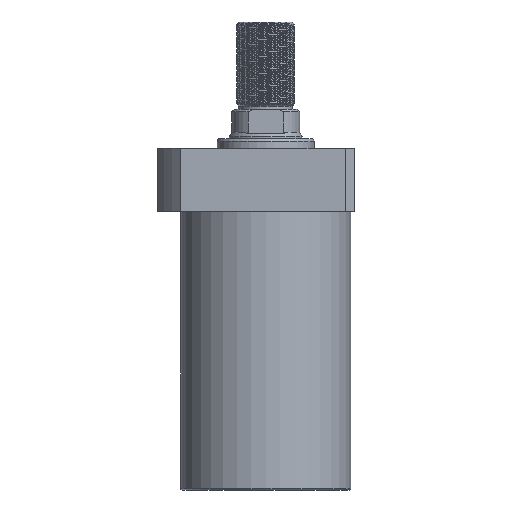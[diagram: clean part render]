
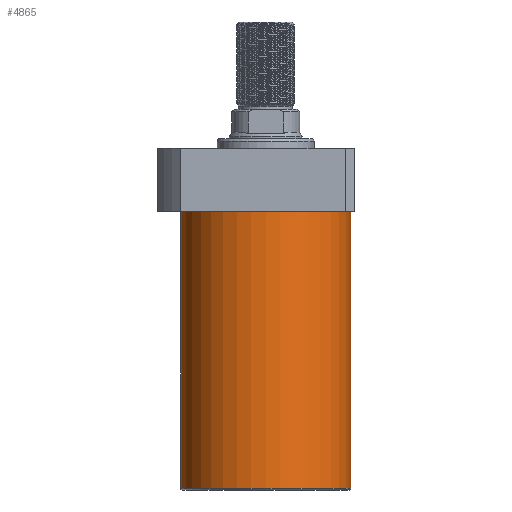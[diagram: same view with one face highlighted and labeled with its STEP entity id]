
A CAD part, front view. The second image highlights one B-rep face of the part: STEP entity #4865.
In plain terms, the highlighted cylindrical face has radius 52.5 mm (diameter 105 mm), a partial arc.
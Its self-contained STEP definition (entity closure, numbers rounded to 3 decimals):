
#151 = EDGE_CURVE ( 'NONE', #5277, #4963, #2709, .T. ) ;
#598 = CARTESIAN_POINT ( 'NONE',  ( 0., 0., -19.5 ) ) ;
#996 = DIRECTION ( 'NONE',  ( 0., 0., 1. ) ) ;
#1059 = VECTOR ( 'NONE', #2474, 1000. ) ;
#1074 = ORIENTED_EDGE ( 'NONE', *, *, #151, .F. ) ;
#1237 = DIRECTION ( 'NONE',  ( 1., 0., 0. ) ) ;
#1312 = EDGE_LOOP ( 'NONE', ( #1074, #6889, #1515, #4651 ) ) ;
#1318 = CARTESIAN_POINT ( 'NONE',  ( -52.5, 0., -191.5 ) ) ;
#1462 = AXIS2_PLACEMENT_3D ( 'NONE', #3450, #4713, #7282 ) ;
#1515 = ORIENTED_EDGE ( 'NONE', *, *, #3473, .T. ) ;
#1891 = DIRECTION ( 'NONE',  ( 0., 0., 1. ) ) ;
#2449 = CARTESIAN_POINT ( 'NONE',  ( 52.5, 0., -191.5 ) ) ;
#2474 = DIRECTION ( 'NONE',  ( 0., 0., 1. ) ) ;
#2515 = VECTOR ( 'NONE', #996, 1000. ) ;
#2709 = LINE ( 'NONE', #1318, #2515 ) ;
#3450 = CARTESIAN_POINT ( 'NONE',  ( 0., 0., -191.5 ) ) ;
#3473 = EDGE_CURVE ( 'NONE', #3540, #5854, #4869, .T. ) ;
#3540 = VERTEX_POINT ( 'NONE', #8295 ) ;
#3795 = CARTESIAN_POINT ( 'NONE',  ( 52.5, 0., -19.5 ) ) ;
#4038 = EDGE_CURVE ( 'NONE', #5277, #3540, #8271, .T. ) ;
#4504 = AXIS2_PLACEMENT_3D ( 'NONE', #5715, #1891, #6371 ) ;
#4651 = ORIENTED_EDGE ( 'NONE', *, *, #7072, .T. ) ;
#4713 = DIRECTION ( 'NONE',  ( 0., 0., 1. ) ) ;
#4865 = ADVANCED_FACE ( 'NONE', ( #8264 ), #6363, .T. ) ;
#4869 = LINE ( 'NONE', #2449, #1059 ) ;
#4963 = VERTEX_POINT ( 'NONE', #8071 ) ;
#5084 = DIRECTION ( 'NONE',  ( 0., 0., -1. ) ) ;
#5277 = VERTEX_POINT ( 'NONE', #7108 ) ;
#5602 = CIRCLE ( 'NONE', #7096, 52.5 ) ;
#5715 = CARTESIAN_POINT ( 'NONE',  ( 0., 0., -190.5 ) ) ;
#5854 = VERTEX_POINT ( 'NONE', #3795 ) ;
#6363 = CYLINDRICAL_SURFACE ( 'NONE', #1462, 52.5 ) ;
#6371 = DIRECTION ( 'NONE',  ( -1., 0., 0. ) ) ;
#6889 = ORIENTED_EDGE ( 'NONE', *, *, #4038, .T. ) ;
#7072 = EDGE_CURVE ( 'NONE', #5854, #4963, #5602, .T. ) ;
#7096 = AXIS2_PLACEMENT_3D ( 'NONE', #598, #5084, #1237 ) ;
#7108 = CARTESIAN_POINT ( 'NONE',  ( -52.5, 0., -190.5 ) ) ;
#7282 = DIRECTION ( 'NONE',  ( 1., 0., 0. ) ) ;
#8071 = CARTESIAN_POINT ( 'NONE',  ( -52.5, 0., -19.5 ) ) ;
#8264 = FACE_OUTER_BOUND ( 'NONE', #1312, .T. ) ;
#8271 = CIRCLE ( 'NONE', #4504, 52.5 ) ;
#8295 = CARTESIAN_POINT ( 'NONE',  ( 52.5, 0., -190.5 ) ) ;
